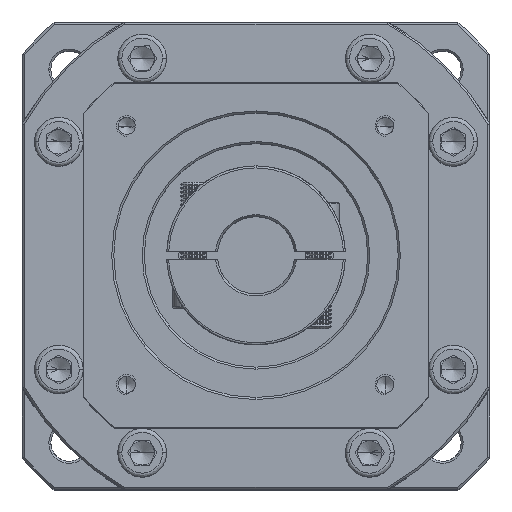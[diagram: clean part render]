
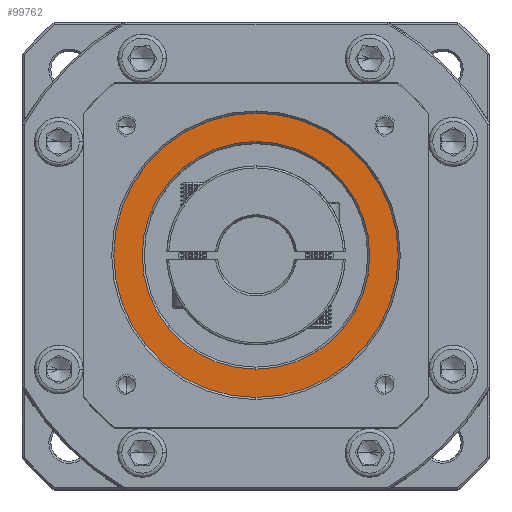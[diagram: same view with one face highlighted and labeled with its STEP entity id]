
A CAD part, top view. The second image highlights one B-rep face of the part: STEP entity #99762.
In plain terms, the highlighted planar face has unit normal (0, 0, 1).
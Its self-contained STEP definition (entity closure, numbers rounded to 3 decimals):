
#704 = CARTESIAN_POINT ( 'NONE',  ( 81.972, 46.609, -28.735 ) ) ;
#5669 = EDGE_CURVE ( 'NONE', #8249, #73017, #65563, .T. ) ;
#8249 = VERTEX_POINT ( 'NONE', #83008 ) ;
#8800 = FACE_BOUND ( 'NONE', #124035, .T. ) ;
#9036 = VERTEX_POINT ( 'NONE', #136440 ) ;
#14176 = DIRECTION ( 'NONE',  ( 0., 0., -1. ) ) ;
#17071 = CARTESIAN_POINT ( 'NONE',  ( 81.972, 11.609, -28.735 ) ) ;
#17544 = CIRCLE ( 'NONE', #27697, 28. ) ;
#24870 = DIRECTION ( 'NONE',  ( 0., 1., 0. ) ) ;
#25630 = EDGE_CURVE ( 'NONE', #73017, #8249, #136978, .T. ) ;
#27697 = AXIS2_PLACEMENT_3D ( 'NONE', #31797, #14176, #24870 ) ;
#31215 = DIRECTION ( 'NONE',  ( 0., 0., 1. ) ) ;
#31797 = CARTESIAN_POINT ( 'NONE',  ( 81.972, 46.609, -28.735 ) ) ;
#35412 = FACE_OUTER_BOUND ( 'NONE', #75243, .T. ) ;
#35860 = CARTESIAN_POINT ( 'NONE',  ( 81.972, 46.609, -28.735 ) ) ;
#40516 = DIRECTION ( 'NONE',  ( 0., 1., 0. ) ) ;
#43579 = ORIENTED_EDGE ( 'NONE', *, *, #73892, .T. ) ;
#45499 = CARTESIAN_POINT ( 'NONE',  ( 81.972, 18.609, -28.735 ) ) ;
#53047 = DIRECTION ( 'NONE',  ( 0., 0., 1. ) ) ;
#54916 = DIRECTION ( 'NONE',  ( 0., 1., 0. ) ) ;
#56708 = DIRECTION ( 'NONE',  ( 0., 0., 1. ) ) ;
#65066 = AXIS2_PLACEMENT_3D ( 'NONE', #72449, #31215, #40516 ) ;
#65563 = CIRCLE ( 'NONE', #88761, 35. ) ;
#72449 = CARTESIAN_POINT ( 'NONE',  ( 81.972, 46.609, -28.735 ) ) ;
#73017 = VERTEX_POINT ( 'NONE', #17071 ) ;
#73892 = EDGE_CURVE ( 'NONE', #9036, #110365, #17544, .T. ) ;
#75243 = EDGE_LOOP ( 'NONE', ( #128838, #135285 ) ) ;
#78904 = DIRECTION ( 'NONE',  ( 0., 1., 0. ) ) ;
#81079 = AXIS2_PLACEMENT_3D ( 'NONE', #129078, #53047, #127263 ) ;
#82549 = CIRCLE ( 'NONE', #118163, 28. ) ;
#83008 = CARTESIAN_POINT ( 'NONE',  ( 81.972, 81.609, -28.735 ) ) ;
#88761 = AXIS2_PLACEMENT_3D ( 'NONE', #35860, #56708, #78904 ) ;
#99762 = ADVANCED_FACE ( 'NONE', ( #35412, #8800 ), #135652, .T. ) ;
#107268 = DIRECTION ( 'NONE',  ( 0., 0., -1. ) ) ;
#110365 = VERTEX_POINT ( 'NONE', #45499 ) ;
#118163 = AXIS2_PLACEMENT_3D ( 'NONE', #704, #107268, #54916 ) ;
#120857 = EDGE_CURVE ( 'NONE', #110365, #9036, #82549, .T. ) ;
#124035 = EDGE_LOOP ( 'NONE', ( #43579, #130677 ) ) ;
#127263 = DIRECTION ( 'NONE',  ( 0., 1., 0. ) ) ;
#128838 = ORIENTED_EDGE ( 'NONE', *, *, #5669, .T. ) ;
#129078 = CARTESIAN_POINT ( 'NONE',  ( 81.972, 46.609, -28.735 ) ) ;
#130677 = ORIENTED_EDGE ( 'NONE', *, *, #120857, .T. ) ;
#135285 = ORIENTED_EDGE ( 'NONE', *, *, #25630, .T. ) ;
#135652 = PLANE ( 'NONE',  #65066 ) ;
#136440 = CARTESIAN_POINT ( 'NONE',  ( 81.972, 74.609, -28.735 ) ) ;
#136978 = CIRCLE ( 'NONE', #81079, 35. ) ;
